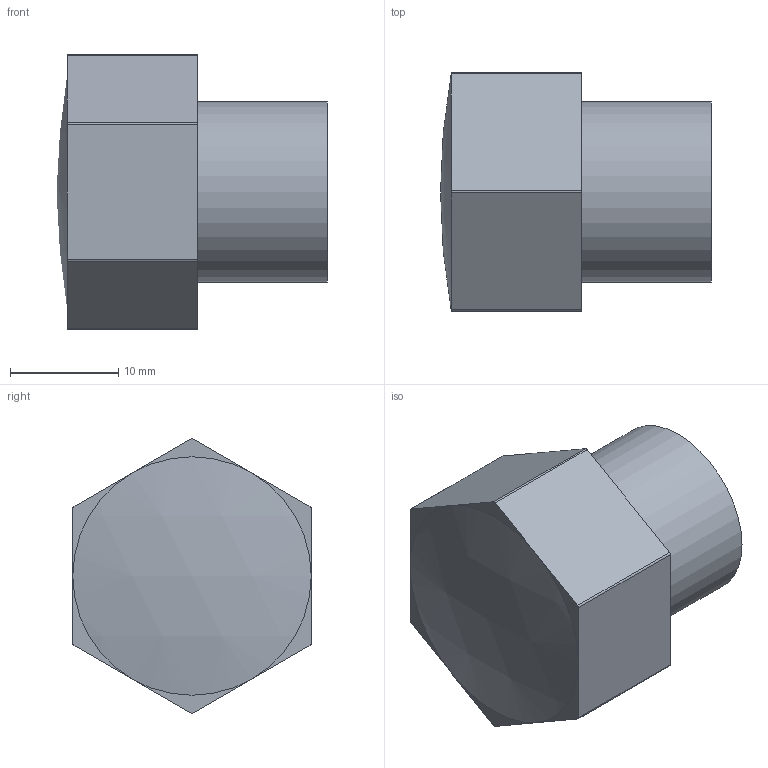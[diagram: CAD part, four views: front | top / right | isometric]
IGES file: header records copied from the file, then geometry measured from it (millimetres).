
Global section: file name: 051701003.ipt; native system: Autodesk Inventor 2015; preprocessor: unknown; author: KIM; date: 20171207.165317; units: millimetre
Bounding box: 25 x 22 x 25.34 mm (x, y, z)
Volume: 5365.8 mm3; surface area: 3115.8 mm2
Topology: 1 solids, 1 shells, 24 faces, 56 edges, 36 vertices
Faces by surface type: plane 14, cylinder 7, revolution 2, sphere 1
Full cylindrical faces by diameter (mm): 16.662 x1
